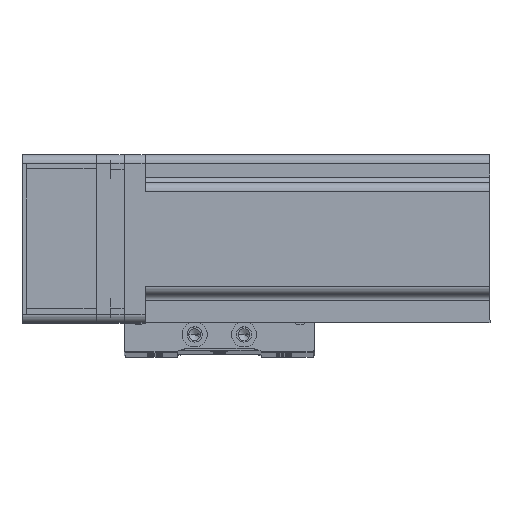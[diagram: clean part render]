
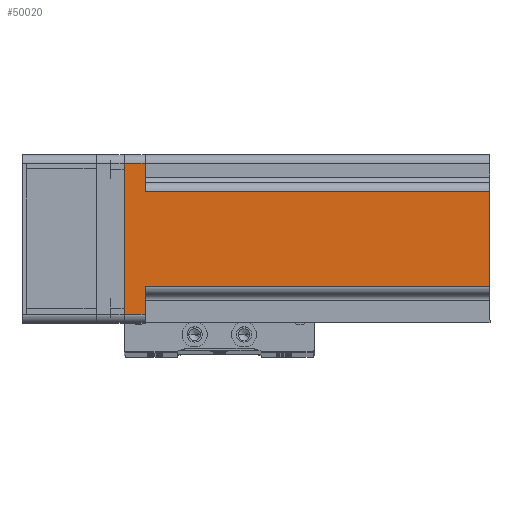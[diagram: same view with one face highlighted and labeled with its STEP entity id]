
A CAD part, top view. The second image highlights one B-rep face of the part: STEP entity #50020.
In plain terms, the highlighted planar face has unit normal (0, 0, 1) as drawn and (0, 1, 0) by its records, which use the part's own axes.
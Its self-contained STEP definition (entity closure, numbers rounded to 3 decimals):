
#1112 = ORIENTED_EDGE ( 'NONE', *, *, #16516, .F. ) ;
#1633 = EDGE_CURVE ( 'NONE', #31016, #20232, #25949, .T. ) ;
#1869 = CARTESIAN_POINT ( 'NONE',  ( 17., 30., 130.7 ) ) ;
#2199 = LINE ( 'NONE', #32905, #22140 ) ;
#2683 = DIRECTION ( 'NONE',  ( 0., 0., 1. ) ) ;
#3161 = ORIENTED_EDGE ( 'NONE', *, *, #1633, .T. ) ;
#3647 = CARTESIAN_POINT ( 'NONE',  ( -27., 30., 0. ) ) ;
#5284 = EDGE_CURVE ( 'NONE', #23151, #31143, #23738, .T. ) ;
#7292 = LINE ( 'NONE', #9182, #16603 ) ;
#8920 = DIRECTION ( 'NONE',  ( -1., 0., 0. ) ) ;
#9182 = CARTESIAN_POINT ( 'NONE',  ( 30., 30., 0. ) ) ;
#9184 = CARTESIAN_POINT ( 'NONE',  ( 17., 30., 7.5 ) ) ;
#9278 = EDGE_CURVE ( 'NONE', #41568, #23151, #13252, .T. ) ;
#9379 = VECTOR ( 'NONE', #2683, 1000. ) ;
#9998 = CARTESIAN_POINT ( 'NONE',  ( -20., 30., 7.5 ) ) ;
#10542 = CARTESIAN_POINT ( 'NONE',  ( -27., 30., 130.7 ) ) ;
#10606 = ORIENTED_EDGE ( 'NONE', *, *, #29410, .T. ) ;
#10839 = PLANE ( 'NONE',  #41446 ) ;
#12341 = VERTEX_POINT ( 'NONE', #41418 ) ;
#12841 = CARTESIAN_POINT ( 'NONE',  ( 27., 30., 7.5 ) ) ;
#13209 = ORIENTED_EDGE ( 'NONE', *, *, #27031, .T. ) ;
#13252 = LINE ( 'NONE', #10542, #43773 ) ;
#15560 = VECTOR ( 'NONE', #32417, 1000. ) ;
#16516 = EDGE_CURVE ( 'NONE', #31016, #25257, #2199, .T. ) ;
#16603 = VECTOR ( 'NONE', #37044, 1000. ) ;
#16800 = LINE ( 'NONE', #28431, #15560 ) ;
#18232 = EDGE_LOOP ( 'NONE', ( #46273, #10606, #1112, #3161, #49930, #41064, #13209, #44479 ) ) ;
#20232 = VERTEX_POINT ( 'NONE', #9184 ) ;
#22140 = VECTOR ( 'NONE', #8920, 1000. ) ;
#22296 = CARTESIAN_POINT ( 'NONE',  ( 27., 30., 130.7 ) ) ;
#22966 = CARTESIAN_POINT ( 'NONE',  ( 30., 30., 130.7 ) ) ;
#23151 = VERTEX_POINT ( 'NONE', #31132 ) ;
#23738 = LINE ( 'NONE', #9998, #34346 ) ;
#25257 = VERTEX_POINT ( 'NONE', #36694 ) ;
#25776 = EDGE_CURVE ( 'NONE', #46025, #20232, #16800, .T. ) ;
#25949 = LINE ( 'NONE', #44247, #45898 ) ;
#27012 = DIRECTION ( 'NONE',  ( 1., 0., 0. ) ) ;
#27031 = EDGE_CURVE ( 'NONE', #12341, #41568, #7292, .T. ) ;
#28431 = CARTESIAN_POINT ( 'NONE',  ( 20., 30., 7.5 ) ) ;
#29410 = EDGE_CURVE ( 'NONE', #31143, #25257, #30564, .T. ) ;
#30564 = LINE ( 'NONE', #38430, #9379 ) ;
#31016 = VERTEX_POINT ( 'NONE', #1869 ) ;
#31132 = CARTESIAN_POINT ( 'NONE',  ( -27., 30., 7.5 ) ) ;
#31143 = VERTEX_POINT ( 'NONE', #42616 ) ;
#32417 = DIRECTION ( 'NONE',  ( -1., 0., 0. ) ) ;
#32905 = CARTESIAN_POINT ( 'NONE',  ( 30., 30., 130.7 ) ) ;
#33833 = DIRECTION ( 'NONE',  ( 1., 0., 0. ) ) ;
#34346 = VECTOR ( 'NONE', #33833, 1000. ) ;
#36694 = CARTESIAN_POINT ( 'NONE',  ( -17., 30., 130.7 ) ) ;
#37044 = DIRECTION ( 'NONE',  ( -1., 0., 0. ) ) ;
#38430 = CARTESIAN_POINT ( 'NONE',  ( -17., 30., 130.7 ) ) ;
#41064 = ORIENTED_EDGE ( 'NONE', *, *, #49867, .T. ) ;
#41418 = CARTESIAN_POINT ( 'NONE',  ( 27., 30., 0. ) ) ;
#41446 = AXIS2_PLACEMENT_3D ( 'NONE', #22966, #50858, #27012 ) ;
#41568 = VERTEX_POINT ( 'NONE', #3647 ) ;
#41651 = FACE_OUTER_BOUND ( 'NONE', #18232, .T. ) ;
#42182 = DIRECTION ( 'NONE',  ( 0., 0., -1. ) ) ;
#42616 = CARTESIAN_POINT ( 'NONE',  ( -17., 30., 7.5 ) ) ;
#43773 = VECTOR ( 'NONE', #46434, 1000. ) ;
#44247 = CARTESIAN_POINT ( 'NONE',  ( 17., 30., 130.7 ) ) ;
#44479 = ORIENTED_EDGE ( 'NONE', *, *, #9278, .T. ) ;
#45898 = VECTOR ( 'NONE', #48125, 1000. ) ;
#46025 = VERTEX_POINT ( 'NONE', #12841 ) ;
#46273 = ORIENTED_EDGE ( 'NONE', *, *, #5284, .T. ) ;
#46434 = DIRECTION ( 'NONE',  ( 0., 0., 1. ) ) ;
#47905 = VECTOR ( 'NONE', #42182, 1000. ) ;
#48125 = DIRECTION ( 'NONE',  ( 0., 0., -1. ) ) ;
#49147 = LINE ( 'NONE', #22296, #47905 ) ;
#49867 = EDGE_CURVE ( 'NONE', #46025, #12341, #49147, .T. ) ;
#49930 = ORIENTED_EDGE ( 'NONE', *, *, #25776, .F. ) ;
#50020 = ADVANCED_FACE ( 'NONE', ( #41651 ), #10839, .F. ) ;
#50858 = DIRECTION ( 'NONE',  ( 0., -1., 0. ) ) ;
